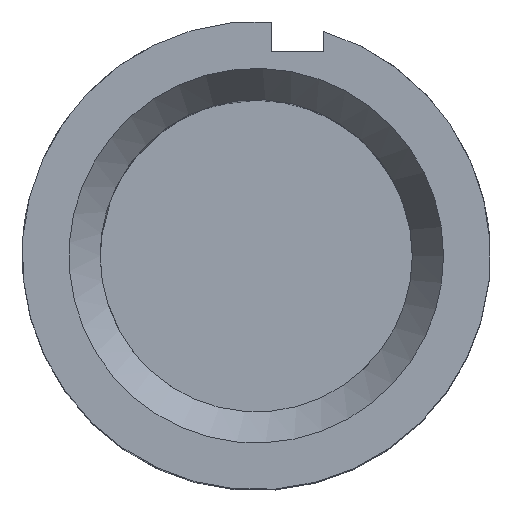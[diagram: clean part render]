
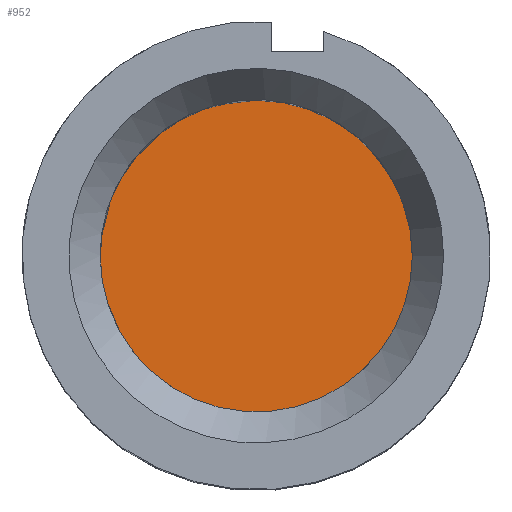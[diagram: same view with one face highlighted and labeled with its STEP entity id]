
A CAD part, top view. The second image highlights one B-rep face of the part: STEP entity #952.
In plain terms, the highlighted planar face has unit normal (0, 0, 1).
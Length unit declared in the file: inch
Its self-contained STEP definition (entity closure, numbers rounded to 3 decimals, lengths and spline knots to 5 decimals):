
#316=CARTESIAN_POINT('',(0.625,0.0,0.375));
#317=VERTEX_POINT('',#316);
#318=CARTESIAN_POINT('',(0.0,0.0,0.375));
#319=DIRECTION('',(0.0,0.0,1.0));
#320=DIRECTION('',(1.0,0.0,0.0));
#321=AXIS2_PLACEMENT_3D('',#318,#319,#320);
#322=CIRCLE('',#321,0.625);
#323=EDGE_CURVE('',#317,#317,#322,.T.);
#944=CARTESIAN_POINT('',(0.0,0.0,0.375));
#945=DIRECTION('',(0.0,0.0,1.0));
#946=DIRECTION('',(1.0,0.0,0.0));
#947=AXIS2_PLACEMENT_3D('',#944,#945,#946);
#948=PLANE('',#947);
#949=ORIENTED_EDGE('',*,*,#323,.T.);
#950=EDGE_LOOP('',(#949));
#951=FACE_OUTER_BOUND('',#950,.T.);
#952=ADVANCED_FACE('',(#951),#948,.T.);
